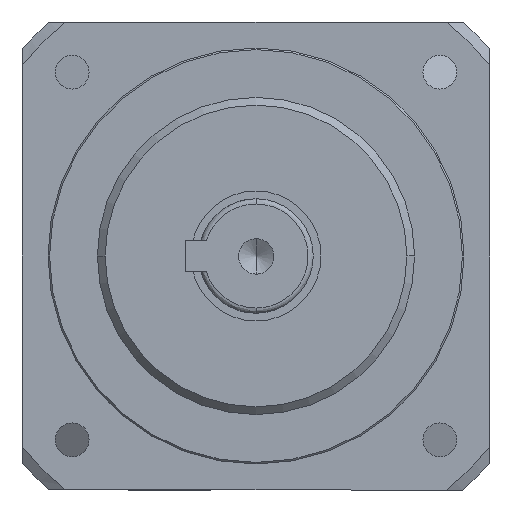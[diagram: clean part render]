
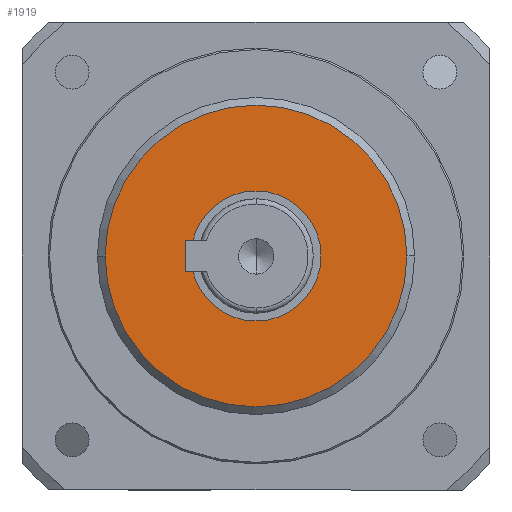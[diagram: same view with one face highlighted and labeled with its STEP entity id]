
A CAD part, left-side view. The second image highlights one B-rep face of the part: STEP entity #1919.
In plain terms, the highlighted planar face has unit normal (-1, 0, 0).
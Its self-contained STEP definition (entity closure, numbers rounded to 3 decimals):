
#142 = EDGE_LOOP ( 'NONE', ( #915, #749 ) ) ;
#177 = EDGE_LOOP ( 'NONE', ( #610, #1167 ) ) ;
#265 = CIRCLE ( 'NONE', #1162, 29. ) ;
#275 = CARTESIAN_POINT ( 'NONE',  ( 13.5, 0., 0. ) ) ;
#397 = CIRCLE ( 'NONE', #768, 12.5 ) ;
#533 = AXIS2_PLACEMENT_3D ( 'NONE', #2594, #1435, #1882 ) ;
#549 = EDGE_CURVE ( 'NONE', #2906, #1148, #2204, .T. ) ;
#610 = ORIENTED_EDGE ( 'NONE', *, *, #549, .F. ) ;
#614 = FACE_BOUND ( 'NONE', #142, .T. ) ;
#749 = ORIENTED_EDGE ( 'NONE', *, *, #1795, .F. ) ;
#753 = DIRECTION ( 'NONE',  ( 0., 0., -1. ) ) ;
#768 = AXIS2_PLACEMENT_3D ( 'NONE', #2299, #2506, #913 ) ;
#840 = AXIS2_PLACEMENT_3D ( 'NONE', #2860, #1712, #1973 ) ;
#913 = DIRECTION ( 'NONE',  ( 0., 0., 1. ) ) ;
#915 = ORIENTED_EDGE ( 'NONE', *, *, #2348, .F. ) ;
#953 = DIRECTION ( 'NONE',  ( 1., 0., 0. ) ) ;
#1130 = VERTEX_POINT ( 'NONE', #1802 ) ;
#1147 = CARTESIAN_POINT ( 'NONE',  ( 13.5, -29., 0. ) ) ;
#1148 = VERTEX_POINT ( 'NONE', #1147 ) ;
#1162 = AXIS2_PLACEMENT_3D ( 'NONE', #275, #953, #1884 ) ;
#1167 = ORIENTED_EDGE ( 'NONE', *, *, #1212, .F. ) ;
#1212 = EDGE_CURVE ( 'NONE', #1148, #2906, #265, .T. ) ;
#1435 = DIRECTION ( 'NONE',  ( -1., 0., 0. ) ) ;
#1493 = VERTEX_POINT ( 'NONE', #2666 ) ;
#1614 = CARTESIAN_POINT ( 'NONE',  ( 13.5, 29., 0. ) ) ;
#1712 = DIRECTION ( 'NONE',  ( 1., 0., 0. ) ) ;
#1795 = EDGE_CURVE ( 'NONE', #1130, #1493, #2654, .T. ) ;
#1802 = CARTESIAN_POINT ( 'NONE',  ( 13.5, 0., -12.5 ) ) ;
#1882 = DIRECTION ( 'NONE',  ( 0., 0., 1. ) ) ;
#1884 = DIRECTION ( 'NONE',  ( 0., 0., -1. ) ) ;
#1919 = ADVANCED_FACE ( 'NONE', ( #2764, #614 ), #2113, .F. ) ;
#1973 = DIRECTION ( 'NONE',  ( 0., 0., -1. ) ) ;
#2096 = DIRECTION ( 'NONE',  ( 1., 0., 0. ) ) ;
#2113 = PLANE ( 'NONE',  #2421 ) ;
#2204 = CIRCLE ( 'NONE', #840, 29. ) ;
#2299 = CARTESIAN_POINT ( 'NONE',  ( 13.5, 0., 0. ) ) ;
#2348 = EDGE_CURVE ( 'NONE', #1493, #1130, #397, .T. ) ;
#2421 = AXIS2_PLACEMENT_3D ( 'NONE', #2579, #2096, #753 ) ;
#2506 = DIRECTION ( 'NONE',  ( -1., 0., 0. ) ) ;
#2579 = CARTESIAN_POINT ( 'NONE',  ( 13.5, 0., -12.5 ) ) ;
#2594 = CARTESIAN_POINT ( 'NONE',  ( 13.5, 0., 0. ) ) ;
#2654 = CIRCLE ( 'NONE', #533, 12.5 ) ;
#2666 = CARTESIAN_POINT ( 'NONE',  ( 13.5, 0., 12.5 ) ) ;
#2764 = FACE_OUTER_BOUND ( 'NONE', #177, .T. ) ;
#2860 = CARTESIAN_POINT ( 'NONE',  ( 13.5, 0., 0. ) ) ;
#2906 = VERTEX_POINT ( 'NONE', #1614 ) ;
